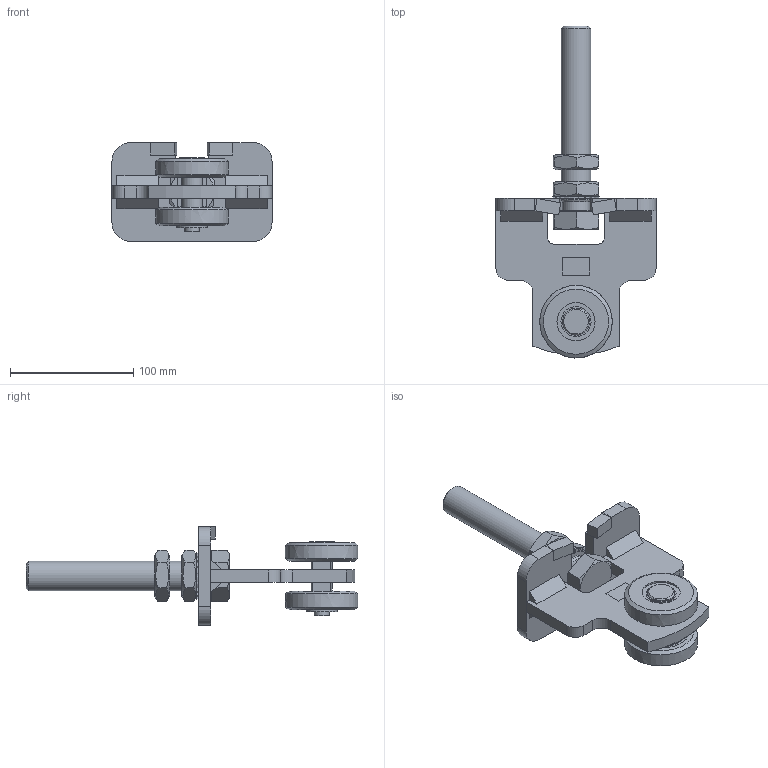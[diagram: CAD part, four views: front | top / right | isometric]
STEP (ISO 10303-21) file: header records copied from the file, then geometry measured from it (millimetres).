
FILE_DESCRIPTION(/* description */ ('Einfachrolle Nr.4'),/* implementation_level */ '2;1');
FILE_NAME(/* name */ 'Q:\sge-ma\Produktmanagement-STB\STB\Workspace\stp\010336340.stp',/* time_stamp */ '2015-07-10T11:28:35+02:00',/* author */ ('avschreier'),/* organization */ (''),/* preprocessor_version */ 'ST-DEVELOPER v15.6',/* originating_system */ 'Autodesk Inventor 2015',/* authorisation */ '');
FILE_SCHEMA (('CONFIG_CONTROL_DESIGN'));
Length unit declared in the file: millimetre
Products named in the file (13): 010336340_Schweißnähte; 000302079; 000302080; 337000287; DIN_625-6203_ZZ_en; 000303241; 000302081; 000302018; DIN_EN_ISO_4035-M24x2_en; DIN_6798-A_25_en; DIN_EN_ISO_4017-M24x150_en; DIN_1440-12_en; 010336340
Bounding box: 130 x 269.42 x 80 mm (x, y, z)
Volume: 368228.8 mm3; surface area: 118275.9 mm2
Topology: 20 solids, 22 shells, 465 faces, 1254 edges, 822 vertices
Faces by surface type: plane 243, cylinder 145, torus 36, cone 25, sphere 14, bspline 2
Full cylindrical faces by diameter (mm): 12 x2, 16.9 x1, 17 x2, 21.835 x2, 22 x1, 22.376 x1, 24 x1, 24.36 x8, 25 x2, 31 x2, 32.64 x8, 33.2 x1, 40 x4
Entity records: 11355 total; most frequent: CARTESIAN_POINT 2627, DIRECTION 1814, ORIENTED_EDGE 1708, EDGE_CURVE 854, AXIS2_PLACEMENT_3D 668, VERTEX_POINT 581, LINE 478, VECTOR 478
